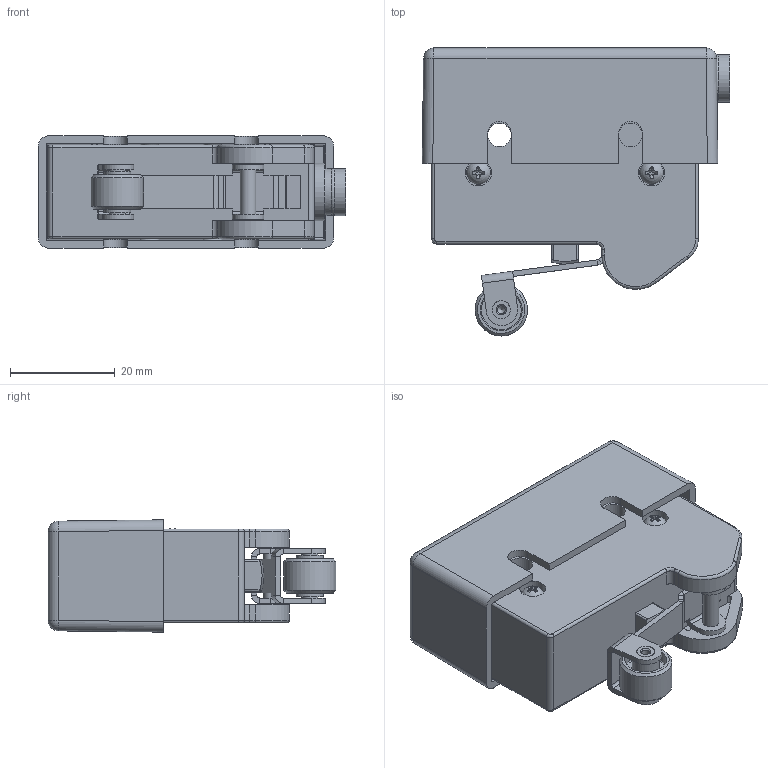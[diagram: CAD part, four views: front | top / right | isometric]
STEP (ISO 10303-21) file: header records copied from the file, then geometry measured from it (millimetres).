
FILE_DESCRIPTION(('STEP AP214'), '1');
FILE_NAME('ÃËÖÈ.642124.003 ÑÁ Âûêëþ÷àòåëü ÌÂË (çàêàç÷èêó)', '', ('UNSPECIFIED'), ('UNSPECIFIED'), 'ASCON STEP Converter 1.6', 'ASCON Math Kernel', '');
FILE_SCHEMA(('AUTOMOTIVE_DESIGN { 1 0 10303 214 3 1 1}'));
Length unit declared in the file: millimetre
Products named in the file (1): 襠窏.642124.003
Bounding box: 58.6 x 54.9 x 21.4 mm (x, y, z)
Volume: 29996.1 mm3; surface area: 18033 mm2
Topology: 2 solids, 2 shells, 422 faces, 1065 edges, 657 vertices
Faces by surface type: plane 263, cylinder 115, torus 19, sphere 19, cone 6
Full cylindrical faces by diameter (mm): 1.5 x1, 2.4 x1, 2.5 x5, 3 x4, 3.2 x1, 4.5 x5, 5 x2, 5.2 x2, 7.5 x1, 8 x2, 9 x1, 10 x1
Entity records: 15880 total; most frequent: CARTESIAN_POINT 2509, DIRECTION 2101, ORIENTED_EDGE 1990, EDGE_CURVE 995, AXIS2_PLACEMENT_3D 717, LINE 667, VECTOR 667, VERTEX_POINT 647
